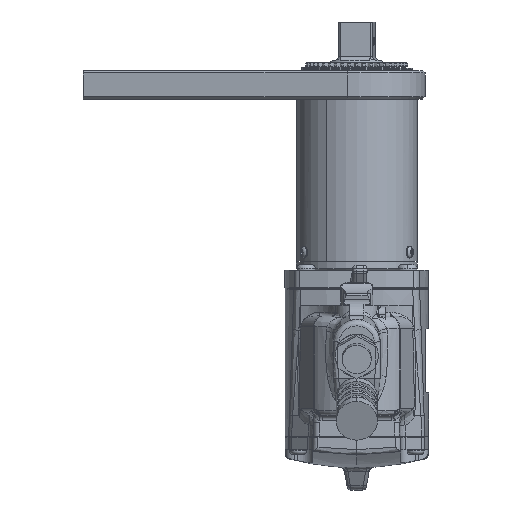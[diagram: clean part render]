
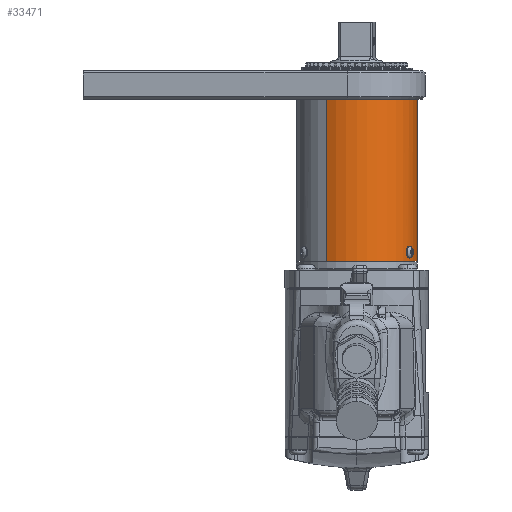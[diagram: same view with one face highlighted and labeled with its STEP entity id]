
A CAD part, front view. The second image highlights one B-rep face of the part: STEP entity #33471.
In plain terms, the highlighted cylindrical face has radius 33.655 mm (diameter 67.31 mm), a partial arc.
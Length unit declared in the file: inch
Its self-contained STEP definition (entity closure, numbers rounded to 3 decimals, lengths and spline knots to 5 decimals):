
#782 = CARTESIAN_POINT ( 'NONE',  ( 1.14748, -0.6625, -3.7488 ) ) ;
#1040 = VERTEX_POINT ( 'NONE', #44195 ) ;
#1120 = CARTESIAN_POINT ( 'NONE',  ( 1.1065, -0.7289, -3.68102 ) ) ;
#1447 = CARTESIAN_POINT ( 'NONE',  ( 1.13471, -0.68416, -3.59679 ) ) ;
#1462 = VECTOR ( 'NONE', #66633, 39.37008 ) ;
#2157 = DIRECTION ( 'NONE',  ( -0.5, -0.866, 0. ) ) ;
#4024 = CARTESIAN_POINT ( 'NONE',  ( 1.18269, -0.59739, -3.64558 ) ) ;
#4356 = CARTESIAN_POINT ( 'NONE',  ( 1.17059, -0.62078, -3.73274 ) ) ;
#4769 = CARTESIAN_POINT ( 'NONE',  ( 1.14748, -0.6625, -3.7488 ) ) ;
#8920 = CARTESIAN_POINT ( 'NONE',  ( 1.10677, -0.72848, -3.66059 ) ) ;
#9255 = CARTESIAN_POINT ( 'NONE',  ( 1.14231, -0.6714, -3.59331 ) ) ;
#10215 = DIRECTION ( 'NONE',  ( 0., 0., 1. ) ) ;
#10695 = ORIENTED_EDGE ( 'NONE', *, *, #41355, .F. ) ;
#11824 = CARTESIAN_POINT ( 'NONE',  ( 1.18426, -0.59426, -3.66051 ) ) ;
#12157 = CARTESIAN_POINT ( 'NONE',  ( 1.16441, -0.63229, -3.74088 ) ) ;
#12276 = CARTESIAN_POINT ( 'NONE',  ( 0.6625, 1.14748, -3.8758 ) ) ;
#16426 = CARTESIAN_POINT ( 'NONE',  ( 1.13726, -0.67991, -3.74631 ) ) ;
#16760 = CARTESIAN_POINT ( 'NONE',  ( 1.10868, -0.72558, -3.64572 ) ) ;
#17092 = CARTESIAN_POINT ( 'NONE',  ( 1.14747, -0.66252, -3.5928 ) ) ;
#18253 = CIRCLE ( 'NONE', #24000, 1.325 ) ;
#18729 = CARTESIAN_POINT ( 'NONE',  ( -0.6625, -1.14748, -3.8758 ) ) ;
#19669 = CARTESIAN_POINT ( 'NONE',  ( 1.1845, -0.5938, -3.67587 ) ) ;
#20011 = CARTESIAN_POINT ( 'NONE',  ( 1.15264, -0.65357, -3.7488 ) ) ;
#23918 = CARTESIAN_POINT ( 'NONE',  ( 1.14491, -0.66696, -3.7488 ) ) ;
#24000 = AXIS2_PLACEMENT_3D ( 'NONE', #89837, #43279, #97674 ) ;
#24251 = CARTESIAN_POINT ( 'NONE',  ( 1.1298, -0.69224, -3.7409 ) ) ;
#24578 = CARTESIAN_POINT ( 'NONE',  ( 1.11214, -0.72026, -3.63171 ) ) ;
#27174 = CARTESIAN_POINT ( 'NONE',  ( 1.15758, -0.64476, -3.59484 ) ) ;
#27500 = CARTESIAN_POINT ( 'NONE',  ( 1.18338, -0.59601, -3.69093 ) ) ;
#28467 = AXIS2_PLACEMENT_3D ( 'NONE', #65224, #10215, #49989 ) ;
#32089 = CARTESIAN_POINT ( 'NONE',  ( 1.12298, -0.70326, -3.73284 ) ) ;
#32431 = CARTESIAN_POINT ( 'NONE',  ( 1.11695, -0.71279, -3.61932 ) ) ;
#32682 = AXIS2_PLACEMENT_3D ( 'NONE', #95342, #48763, #2157 ) ;
#33471 = ADVANCED_FACE ( 'NONE', ( #68084, #69278 ), #64197, .T. ) ;
#34446 = ORIENTED_EDGE ( 'NONE', *, *, #70420, .T. ) ;
#34456 = CARTESIAN_POINT ( 'NONE',  ( 0.6625, 1.14748, -3.8758 ) ) ;
#34698 = CARTESIAN_POINT ( 'NONE',  ( -0.6625, -1.14748, -3.8758 ) ) ;
#34985 = CARTESIAN_POINT ( 'NONE',  ( 1.1707, -0.62059, -3.60841 ) ) ;
#35319 = CARTESIAN_POINT ( 'NONE',  ( 1.18094, -0.60084, -3.70533 ) ) ;
#36898 = EDGE_LOOP ( 'NONE', ( #34446, #73129 ) ) ;
#39887 = CARTESIAN_POINT ( 'NONE',  ( 1.11505, -0.71578, -3.71876 ) ) ;
#40220 = CARTESIAN_POINT ( 'NONE',  ( 1.12295, -0.7033, -3.6088 ) ) ;
#40705 = VERTEX_POINT ( 'NONE', #34698 ) ;
#40861 = ORIENTED_EDGE ( 'NONE', *, *, #66975, .T. ) ;
#41285 = VERTEX_POINT ( 'NONE', #34456 ) ;
#41355 = EDGE_CURVE ( 'NONE', #41285, #40705, #18253, .T. ) ;
#42809 = CARTESIAN_POINT ( 'NONE',  ( 1.17723, -0.60809, -3.62319 ) ) ;
#43152 = CARTESIAN_POINT ( 'NONE',  ( 1.17727, -0.60801, -3.71829 ) ) ;
#43279 = DIRECTION ( 'NONE',  ( 0., 0., -1. ) ) ;
#44195 = CARTESIAN_POINT ( 'NONE',  ( -0.6625, -1.14748, -0.2933 ) ) ;
#46623 = VERTEX_POINT ( 'NONE', #56751 ) ;
#47714 = CARTESIAN_POINT ( 'NONE',  ( 1.10763, -0.72718, -3.69128 ) ) ;
#48062 = CARTESIAN_POINT ( 'NONE',  ( 1.1298, -0.69224, -3.60071 ) ) ;
#48732 = B_SPLINE_CURVE_WITH_KNOTS ( 'NONE', 3,
 ( #782, #23918, #62968, #16426, #70798, #24251, #78623, #32089, #86493, #39887, #94283, #47714, #1120, #55491, #8920, #63301, #16760, #71135, #24578, #78967, #32431, #86822, #40220, #94624, #48062, #1447, #55810, #9255, #63632, #17092 ),
 .UNSPECIFIED., .F., .F.,
 ( 4, 2, 2, 2, 2, 2, 2, 2, 2, 2, 2, 2, 2, 2, 4 ),
 ( 0., 0.00039, 0.00077, 0.00116, 0.00155, 0.00232, 0.0031, 0.00348, 0.00387, 0.00426, 0.00465, 0.00503, 0.00542, 0.00581, 0.00619 ),
 .UNSPECIFIED. ) ;
#48763 = DIRECTION ( 'NONE',  ( 0., 0., -1. ) ) ;
#49989 = DIRECTION ( 'NONE',  ( 0.5, 0.866, 0. ) ) ;
#50603 = CARTESIAN_POINT ( 'NONE',  ( 1.18091, -0.60089, -3.63615 ) ) ;
#50942 = CARTESIAN_POINT ( 'NONE',  ( 1.17242, -0.61731, -3.72951 ) ) ;
#51552 = CARTESIAN_POINT ( 'NONE',  ( 1.14747, -0.66252, -3.5928 ) ) ;
#55491 = CARTESIAN_POINT ( 'NONE',  ( 1.10649, -0.7289, -3.66575 ) ) ;
#55810 = CARTESIAN_POINT ( 'NONE',  ( 1.13722, -0.67999, -3.59531 ) ) ;
#55895 = VERTEX_POINT ( 'NONE', #51552 ) ;
#56751 = CARTESIAN_POINT ( 'NONE',  ( 0.6625, 1.14748, -0.2933 ) ) ;
#58366 = CARTESIAN_POINT ( 'NONE',  ( 1.18337, -0.59604, -3.65054 ) ) ;
#58704 = CARTESIAN_POINT ( 'NONE',  ( 1.16657, -0.62829, -3.73845 ) ) ;
#61019 = LINE ( 'NONE', #12276, #1462 ) ;
#62968 = CARTESIAN_POINT ( 'NONE',  ( 1.14235, -0.67134, -3.7483 ) ) ;
#63223 = CARTESIAN_POINT ( 'NONE',  ( 1.15256, -0.65371, -3.5928 ) ) ;
#63301 = CARTESIAN_POINT ( 'NONE',  ( 1.10787, -0.72681, -3.65058 ) ) ;
#63632 = CARTESIAN_POINT ( 'NONE',  ( 1.14492, -0.66693, -3.5928 ) ) ;
#64197 = CYLINDRICAL_SURFACE ( 'NONE', #28467, 1.325 ) ;
#65224 = CARTESIAN_POINT ( 'NONE',  ( 0., 0., -3.8758 ) ) ;
#65841 = CARTESIAN_POINT ( 'NONE',  ( 1.14747, -0.66252, -3.5928 ) ) ;
#66169 = CARTESIAN_POINT ( 'NONE',  ( 1.18449, -0.59381, -3.66558 ) ) ;
#66511 = CARTESIAN_POINT ( 'NONE',  ( 1.15765, -0.64464, -3.74673 ) ) ;
#66633 = DIRECTION ( 'NONE',  ( 0., 0., 1. ) ) ;
#66975 = EDGE_CURVE ( 'NONE', #41285, #46623, #61019, .T. ) ;
#67175 = B_SPLINE_CURVE_WITH_KNOTS ( 'NONE', 3,
 ( #65841, #63223, #27174, #81538, #34985, #89380, #42809, #97205, #50603, #4024, #58366, #11824, #66169, #19669, #74039, #27500, #81879, #35319, #89707, #43152, #97547, #50942, #4356, #58704, #12157, #66511, #20011, #74366 ),
 .UNSPECIFIED., .F., .F.,
 ( 4, 2, 2, 2, 2, 2, 2, 2, 2, 2, 2, 2, 2, 4 ),
 ( 0.00619, 0.00697, 0.00774, 0.00813, 0.00852, 0.0089, 0.00929, 0.00968, 0.01007, 0.01045, 0.01084, 0.01123, 0.01162, 0.01239 ),
 .UNSPECIFIED. ) ;
#68084 = FACE_OUTER_BOUND ( 'NONE', #73326, .T. ) ;
#69278 = FACE_BOUND ( 'NONE', #36898, .T. ) ;
#70420 = EDGE_CURVE ( 'NONE', #87298, #55895, #48732, .T. ) ;
#70798 = CARTESIAN_POINT ( 'NONE',  ( 1.13471, -0.68416, -3.74481 ) ) ;
#71135 = CARTESIAN_POINT ( 'NONE',  ( 1.11081, -0.72231, -3.63627 ) ) ;
#73129 = ORIENTED_EDGE ( 'NONE', *, *, #90528, .T. ) ;
#73326 = EDGE_LOOP ( 'NONE', ( #94029, #10695, #40861, #95396 ) ) ;
#74039 = CARTESIAN_POINT ( 'NONE',  ( 1.18427, -0.59425, -3.68096 ) ) ;
#74366 = CARTESIAN_POINT ( 'NONE',  ( 1.14748, -0.6625, -3.7488 ) ) ;
#75372 = VECTOR ( 'NONE', #96599, 39.37008 ) ;
#77080 = EDGE_CURVE ( 'NONE', #46623, #1040, #83581, .T. ) ;
#78623 = CARTESIAN_POINT ( 'NONE',  ( 1.12745, -0.69605, -3.7385 ) ) ;
#78967 = CARTESIAN_POINT ( 'NONE',  ( 1.11521, -0.71551, -3.62326 ) ) ;
#81538 = CARTESIAN_POINT ( 'NONE',  ( 1.16661, -0.62828, -3.6026 ) ) ;
#81879 = CARTESIAN_POINT ( 'NONE',  ( 1.18271, -0.59735, -3.69587 ) ) ;
#83581 = CIRCLE ( 'NONE', #32682, 1.325 ) ;
#86493 = CARTESIAN_POINT ( 'NONE',  ( 1.12084, -0.70666, -3.72955 ) ) ;
#86822 = CARTESIAN_POINT ( 'NONE',  ( 1.12085, -0.70664, -3.61203 ) ) ;
#87298 = VERTEX_POINT ( 'NONE', #4769 ) ;
#89380 = CARTESIAN_POINT ( 'NONE',  ( 1.17571, -0.61102, -3.61919 ) ) ;
#89707 = CARTESIAN_POINT ( 'NONE',  ( 1.17985, -0.60298, -3.70981 ) ) ;
#89837 = CARTESIAN_POINT ( 'NONE',  ( 0., 0., -3.8758 ) ) ;
#90528 = EDGE_CURVE ( 'NONE', #55895, #87298, #67175, .T. ) ;
#93215 = EDGE_CURVE ( 'NONE', #40705, #1040, #96104, .T. ) ;
#94029 = ORIENTED_EDGE ( 'NONE', *, *, #93215, .F. ) ;
#94283 = CARTESIAN_POINT ( 'NONE',  ( 1.11189, -0.72066, -3.71006 ) ) ;
#94624 = CARTESIAN_POINT ( 'NONE',  ( 1.12741, -0.69612, -3.60315 ) ) ;
#95342 = CARTESIAN_POINT ( 'NONE',  ( 0., 0., -0.2933 ) ) ;
#95396 = ORIENTED_EDGE ( 'NONE', *, *, #77080, .T. ) ;
#96104 = LINE ( 'NONE', #18729, #75372 ) ;
#96599 = DIRECTION ( 'NONE',  ( 0., 0., 1. ) ) ;
#97205 = CARTESIAN_POINT ( 'NONE',  ( 1.17982, -0.60304, -3.63167 ) ) ;
#97547 = CARTESIAN_POINT ( 'NONE',  ( 1.17575, -0.61093, -3.72231 ) ) ;
#97674 = DIRECTION ( 'NONE',  ( -0.5, -0.866, 0. ) ) ;
